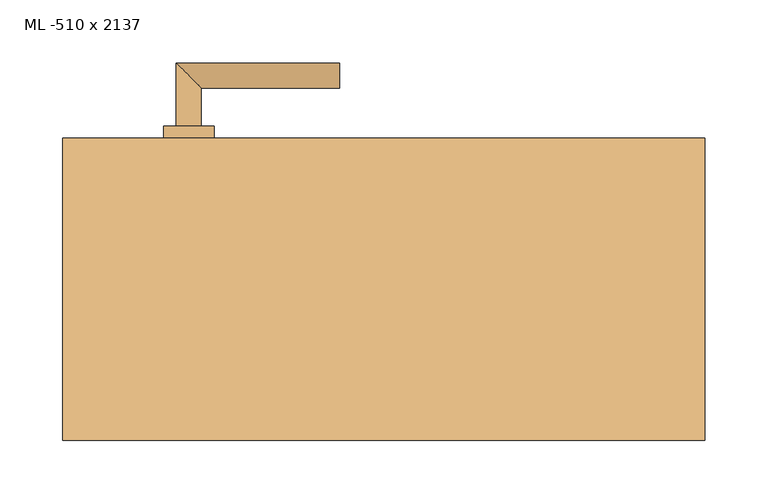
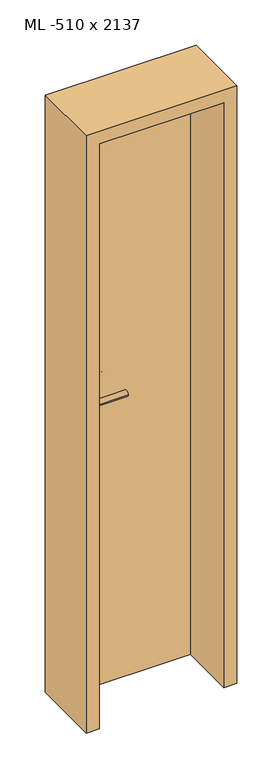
"""IFC4 building model written with IfcOpenShell, lengths in millimetres: door geometry, TU DF 1 - Rahmenstock flächenbündig : ML -510 x 2137."""

from ifc_helpers import new_model, si_unit, point, frame, frame_2d, origin, origin_with_axes, place, context, project, spatial, polyline, circle_curve, ellipse_curve, trimmed, segment, composite_curve, outline, extrude, faceted_brep, source, transform, mapped, element, save
from ifc_brep_helpers import plane_surface, cylinder_surface, advanced_brep


def ml_510_x_2137_2d006b58(model_context):
    return source(origin(), model_context, "Body", "SolidModel", [
        extrude(outline(polyline([(221.0, 120.0), (221.0, 75.0), (-221.0, 75.0), (-221.0, 120.0), (221.0, 120.0)])), origin_with_axes(), (0.0, 0.0, 1.0), 2101.0),
        advanced_brep(
        [(-145.0, 130.0, 1050.0), (-165.0, 130.0, 1050.0), (-145.0, 160.0, 1050.0), (-165.0, 180.0, 1050.0), (-35.0, 160.0, 1050.0), (-35.0, 180.0, 1050.0)],
        [
            (0, 1, circle_curve(frame((-155.0, 130.0, 1050.0), z_axis=(0.0, -1.0, 0.0), x_axis=(-1.0, 0.0, 0.0)), 10.0)),
            (1, 0, circle_curve(frame((-155.0, 130.0, 1050.0), z_axis=(0.0, -1.0, 0.0), x_axis=(-1.0, 0.0, 0.0)), 10.0)),
            (0, 2),
            (2, 3, ellipse_curve(frame((-155.0, 170.0, 1050.0), z_axis=(-0.7071067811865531, -0.7071067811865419, 0.0), x_axis=(0.707106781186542, -0.707106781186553, 0.0)), 14.1421356, 10.0)),
            (3, 1),
            (3, 2, ellipse_curve(frame((-155.0, 170.0, 1050.0), z_axis=(-0.7071067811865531, -0.7071067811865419, 0.0), x_axis=(0.707106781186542, -0.707106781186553, 0.0)), 14.1421356, 10.0)),
            (4, 5, circle_curve(frame((-35.0, 170.0, 1050.0), z_axis=(1.0, 0.0, 0.0), x_axis=(0.0, 1.0, 0.0)), 10.0)),
            (5, 4, circle_curve(frame((-35.0, 170.0, 1050.0), z_axis=(1.0, 0.0, 0.0), x_axis=(0.0, 1.0, 0.0)), 10.0)),
            (2, 4),
            (5, 3),
        ],
        [
            plane_surface(frame((-155.0, 130.0, 1050.0), z_axis=(0.0, -1.0, 0.0), x_axis=(0.0, 0.0, 1.0))),
            cylinder_surface(frame((-155.0, 130.0, 1050.0), z_axis=(0.0, -1.0, 0.0), x_axis=(-1.0, 0.0, 0.0)), 10.0),
            plane_surface(frame((-35.0, 170.0, 1050.0), z_axis=(1.0, 0.0, 0.0), x_axis=(0.0, 0.0, 1.0))),
            cylinder_surface(frame((-155.0, 170.0, 1050.0), z_axis=(-1.0, 0.0, 0.0), x_axis=(0.0, 1.0, 0.0)), 10.0),
        ],
        [
            (0, [[1, 2]]),
            (1, [[-1, 3, 4, 5]]),
            (1, [[-2, -5, 6, -3]]),
            (2, [[7, 8]]),
            (3, [[-4, 9, -8, 10]]),
            (3, [[-6, -10, -7, -9]]),
        ],
    ),
        extrude(outline(composite_curve([segment(trimmed(circle_curve(frame_2d((990.0, -155.0)), 20.0), [point((990.0, -175.0))], [point((990.0, -135.0))], False, "CARTESIAN"), True, "CONTINUOUS"), segment(trimmed(circle_curve(frame_2d((990.0, -155.0)), 20.0), [point((990.0, -135.0))], [point((990.0, -175.0))], False, "CARTESIAN"), True, "CONTINUOUS")], self_intersect=False), holes=[composite_curve([segment(polyline([(976.4601385, -157.397268), (988.4749012, -157.397268)]), True, "CONTINUOUS"), segment(trimmed(circle_curve(frame_2d((995.0361633, -155.0)), 6.9854888), [point((988.4749012, -157.397268))], [point((988.4749012, -152.602732))], True, "CARTESIAN"), True, "CONTINUOUS"), segment(polyline([(988.4749012, -152.602732), (976.4601385, -152.602732)]), True, "CONTINUOUS"), segment(trimmed(circle_curve(frame_2d((976.4601385, -155.0)), 2.397268), [point((976.4601385, -152.602732))], [point((976.4601385, -157.397268))], True, "CARTESIAN"), True, "CONTINUOUS")], self_intersect=False)]), frame((0.0, 120.0, 0.0), z_axis=(0.0, 1.0, 0.0), x_axis=(0.0, 0.0, 1.0)), (0.0, 0.0, 1.0), 10.0),
        advanced_brep(
        [(-145.0, 130.0, 1050.0), (-165.0, 130.0, 1050.0), (-145.0, 160.0, 1050.0), (-165.0, 180.0, 1050.0), (-35.0, 160.0, 1050.0), (-35.0, 180.0, 1050.0)],
        [
            (0, 1, circle_curve(frame((-155.0, 130.0, 1050.0), z_axis=(0.0, -1.0, 0.0), x_axis=(-1.0, 0.0, 0.0)), 10.0)),
            (1, 0, circle_curve(frame((-155.0, 130.0, 1050.0), z_axis=(0.0, -1.0, 0.0), x_axis=(-1.0, 0.0, 0.0)), 10.0)),
            (0, 2),
            (2, 3, ellipse_curve(frame((-155.0, 170.0, 1050.0), z_axis=(-0.7071067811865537, -0.7071067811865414, 0.0), x_axis=(0.7071067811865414, -0.7071067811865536, 0.0)), 14.1421356, 10.0)),
            (3, 1),
            (3, 2, ellipse_curve(frame((-155.0, 170.0, 1050.0), z_axis=(-0.7071067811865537, -0.7071067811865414, 0.0), x_axis=(0.7071067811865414, -0.7071067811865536, 0.0)), 14.1421356, 10.0)),
            (4, 5, circle_curve(frame((-35.0, 170.0, 1050.0), z_axis=(1.0, 0.0, 0.0), x_axis=(0.0, 1.0, 0.0)), 10.0)),
            (5, 4, circle_curve(frame((-35.0, 170.0, 1050.0), z_axis=(1.0, 0.0, 0.0), x_axis=(0.0, 1.0, 0.0)), 10.0)),
            (2, 4),
            (5, 3),
        ],
        [
            plane_surface(frame((-155.0, 130.0, 1050.0), z_axis=(0.0, -1.0, 0.0), x_axis=(0.0, 0.0, 1.0))),
            cylinder_surface(frame((-155.0, 130.0, 1050.0), z_axis=(0.0, -1.0, 0.0), x_axis=(-1.0, 0.0, 0.0)), 10.0),
            plane_surface(frame((-35.0, 170.0, 1050.0), z_axis=(1.0, 0.0, 0.0), x_axis=(0.0, 0.0, 1.0))),
            cylinder_surface(frame((-155.0, 170.0, 1050.0), z_axis=(-1.0, 0.0, 0.0), x_axis=(0.0, 1.0, 0.0)), 10.0),
        ],
        [
            (0, [[1, 2]]),
            (1, [[-1, 3, 4, 5]]),
            (1, [[-2, -5, 6, -3]]),
            (2, [[7, 8]]),
            (3, [[-4, 9, -8, 10]]),
            (3, [[-6, -10, -7, -9]]),
        ],
    ),
        extrude(outline(composite_curve([segment(trimmed(circle_curve(frame_2d((1050.0, -155.0)), 20.0), [point((1050.0, -175.0))], [point((1050.0, -135.0))], False, "CARTESIAN"), True, "CONTINUOUS"), segment(trimmed(circle_curve(frame_2d((1050.0, -155.0)), 20.0), [point((1050.0, -135.0))], [point((1050.0, -175.0))], False, "CARTESIAN"), True, "CONTINUOUS")], self_intersect=False)), frame((0.0, 120.0, 0.0), z_axis=(0.0, 1.0, 0.0), x_axis=(0.0, 0.0, 1.0)), (0.0, 0.0, 1.0), 10.0),
        advanced_brep(
        [(-145.0, 65.0, 1050.0), (-165.0, 65.0, 1050.0), (-165.0, 15.0, 1050.0), (-145.0, 35.0, 1050.0), (-35.0, 35.0, 1050.0), (-35.0, 15.0, 1050.0)],
        [
            (0, 1, circle_curve(frame((-155.0, 65.0, 1050.0), z_axis=(0.0, 1.0, 0.0), x_axis=(-1.0, 0.0, 0.0)), 10.0)),
            (1, 0, circle_curve(frame((-155.0, 65.0, 1050.0), z_axis=(0.0, 1.0, 0.0), x_axis=(-1.0, 0.0, 0.0)), 10.0)),
            (1, 2),
            (2, 3, ellipse_curve(frame((-155.0, 25.0, 1050.0), z_axis=(-0.7071067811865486, 0.7071067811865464, 0.0), x_axis=(0.7071067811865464, 0.7071067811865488, 0.0)), 14.1421356, 10.0)),
            (3, 0),
            (3, 2, ellipse_curve(frame((-155.0, 25.0, 1050.0), z_axis=(-0.7071067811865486, 0.7071067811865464, 0.0), x_axis=(0.7071067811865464, 0.7071067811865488, 0.0)), 14.1421356, 10.0)),
            (4, 5, circle_curve(frame((-35.0, 25.0, 1050.0), z_axis=(1.0, 0.0, 0.0), x_axis=(0.0, -1.0, 0.0)), 10.0)),
            (5, 4, circle_curve(frame((-35.0, 25.0, 1050.0), z_axis=(1.0, 0.0, 0.0), x_axis=(0.0, -1.0, 0.0)), 10.0)),
            (2, 5),
            (4, 3),
        ],
        [
            plane_surface(frame((-155.0, 65.0, 1050.0), z_axis=(0.0, 1.0, 0.0), x_axis=(0.0, 0.0, 1.0))),
            cylinder_surface(frame((-155.0, 65.0, 1050.0), z_axis=(0.0, 1.0, 0.0), x_axis=(-1.0, 0.0, 0.0)), 10.0),
            plane_surface(frame((-35.0, 25.0, 1050.0), z_axis=(1.0, 0.0, 0.0), x_axis=(0.0, 0.0, 1.0))),
            cylinder_surface(frame((-155.0, 25.0, 1050.0), z_axis=(-1.0, 0.0, 0.0), x_axis=(0.0, -1.0, 0.0)), 10.0),
        ],
        [
            (0, [[1, 2]]),
            (1, [[3, 4, 5, -2]]),
            (1, [[-5, 6, -3, -1]]),
            (2, [[7, 8]]),
            (3, [[9, -7, 10, -4]]),
            (3, [[-10, -8, -9, -6]]),
        ],
    ),
        extrude(outline(composite_curve([segment(trimmed(circle_curve(frame_2d((990.0, -155.0)), 20.0), [point((990.0, -175.0))], [point((990.0, -135.0))], False, "CARTESIAN"), True, "CONTINUOUS"), segment(trimmed(circle_curve(frame_2d((990.0, -155.0)), 20.0), [point((990.0, -135.0))], [point((990.0, -175.0))], False, "CARTESIAN"), True, "CONTINUOUS")], self_intersect=False), holes=[composite_curve([segment(polyline([(976.4601385, -157.397268), (988.4749012, -157.397268)]), True, "CONTINUOUS"), segment(trimmed(circle_curve(frame_2d((995.0361633, -155.0)), 6.9854888), [point((988.4749012, -157.397268))], [point((988.4749012, -152.602732))], True, "CARTESIAN"), True, "CONTINUOUS"), segment(polyline([(988.4749012, -152.602732), (976.4601385, -152.602732)]), True, "CONTINUOUS"), segment(trimmed(circle_curve(frame_2d((976.4601385, -155.0)), 2.397268), [point((976.4601385, -152.602732))], [point((976.4601385, -157.397268))], True, "CARTESIAN"), True, "CONTINUOUS")], self_intersect=False)]), frame((0.0, 65.0, 0.0), z_axis=(0.0, 1.0, 0.0), x_axis=(0.0, 0.0, 1.0)), (0.0, 0.0, 1.0), 10.0),
        advanced_brep(
        [(-145.0, 65.0, 1050.0), (-165.0, 65.0, 1050.0), (-165.0, 15.0, 1050.0), (-145.0, 35.0, 1050.0), (-35.0, 35.0, 1050.0), (-35.0, 15.0, 1050.0)],
        [
            (0, 1, circle_curve(frame((-155.0, 65.0, 1050.0), z_axis=(0.0, 1.0, 0.0), x_axis=(-1.0, 0.0, 0.0)), 10.0)),
            (1, 0, circle_curve(frame((-155.0, 65.0, 1050.0), z_axis=(0.0, 1.0, 0.0), x_axis=(-1.0, 0.0, 0.0)), 10.0)),
            (1, 2),
            (2, 3, ellipse_curve(frame((-155.0, 25.0, 1050.0), z_axis=(-0.7071067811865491, 0.7071067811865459, 0.0), x_axis=(0.7071067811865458, 0.7071067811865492, 0.0)), 14.1421356, 10.0)),
            (3, 0),
            (3, 2, ellipse_curve(frame((-155.0, 25.0, 1050.0), z_axis=(-0.7071067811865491, 0.7071067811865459, 0.0), x_axis=(0.7071067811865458, 0.7071067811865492, 0.0)), 14.1421356, 10.0)),
            (4, 5, circle_curve(frame((-35.0, 25.0, 1050.0), z_axis=(1.0, 0.0, 0.0), x_axis=(0.0, -1.0, 0.0)), 10.0)),
            (5, 4, circle_curve(frame((-35.0, 25.0, 1050.0), z_axis=(1.0, 0.0, 0.0), x_axis=(0.0, -1.0, 0.0)), 10.0)),
            (2, 5),
            (4, 3),
        ],
        [
            plane_surface(frame((-155.0, 65.0, 1050.0), z_axis=(0.0, 1.0, 0.0), x_axis=(0.0, 0.0, 1.0))),
            cylinder_surface(frame((-155.0, 65.0, 1050.0), z_axis=(0.0, 1.0, 0.0), x_axis=(-1.0, 0.0, 0.0)), 10.0),
            plane_surface(frame((-35.0, 25.0, 1050.0), z_axis=(1.0, 0.0, 0.0), x_axis=(0.0, 0.0, 1.0))),
            cylinder_surface(frame((-155.0, 25.0, 1050.0), z_axis=(-1.0, 0.0, 0.0), x_axis=(0.0, -1.0, 0.0)), 10.0),
        ],
        [
            (0, [[1, 2]]),
            (1, [[3, 4, 5, -2]]),
            (1, [[-5, 6, -3, -1]]),
            (2, [[7, 8]]),
            (3, [[9, -7, 10, -4]]),
            (3, [[-10, -8, -9, -6]]),
        ],
    ),
        extrude(outline(composite_curve([segment(trimmed(circle_curve(frame_2d((1050.0, -155.0)), 20.0), [point((1050.0, -175.0))], [point((1050.0, -135.0))], False, "CARTESIAN"), True, "CONTINUOUS"), segment(trimmed(circle_curve(frame_2d((1050.0, -155.0)), 20.0), [point((1050.0, -135.0))], [point((1050.0, -175.0))], False, "CARTESIAN"), True, "CONTINUOUS")], self_intersect=False)), frame((0.0, 65.0, 0.0), z_axis=(0.0, 1.0, 0.0), x_axis=(0.0, 0.0, 1.0)), (0.0, 0.0, 1.0), 10.0),
        faceted_brep([(-225.0, 120.0, 0.0), (-225.0, 75.0, 0.0), (-210.0, 75.0, 0.0), (-210.0, -120.0, 0.0), (-255.0, -120.0, 0.0), (-255.0, 120.0, 0.0), (-225.0, 120.0, 2105.0), (-225.0, 75.0, 2105.0), (225.0, 75.0, 2105.0), (225.0, 75.0, 0.0), (210.0, 75.0, 0.0), (210.0, 75.0, 2090.0), (-210.0, 75.0, 2090.0), (-210.0, -120.0, 2090.0), (210.0, -120.0, 2090.0), (210.0, -120.0, 0.0), (255.0, -120.0, 0.0), (255.0, -120.0, 2135.0), (-255.0, -120.0, 2135.0), (-255.0, 120.0, 2135.0), (255.0, 120.0, 2135.0), (255.0, 120.0, 0.0), (225.0, 120.0, 0.0), (225.0, 120.0, 2105.0)], [[[0, 1, 2, 3, 4, 5]], [[1, 0, 6, 7]], [[2, 1, 7, 8, 9, 10, 11, 12]], [[3, 2, 12, 13]], [[4, 3, 13, 14, 15, 16, 17, 18]], [[5, 4, 18, 19]], [[0, 5, 19, 20, 21, 22, 23, 6]], [[20, 17, 16, 21]], [[22, 21, 16, 15, 10, 9]], [[8, 23, 22, 9]], [[14, 11, 10, 15]], [[19, 18, 17, 20]], [[13, 12, 11, 14]], [[7, 6, 23, 8]]]),
    ])


if __name__ == "__main__":
    model = new_model("IFC4")
    model_context = context("Model", 3, world=origin())
    ifc_project = project(units=[si_unit("LENGTHUNIT", "METRE", prefix="MILLI")], contexts=[model_context])
    site = spatial("IfcSite", under=ifc_project)
    building = spatial("IfcBuilding", under=site)
    placement = place(None, origin())
    ml_510_x_2137_shape = ml_510_x_2137_2d006b58(model_context)
    element("IfcDoor", 1, ObjectType="TU DF 1 - Rahmenstock flächenbündig : ML -510 x 2137", at=placement, inside=building, context=model_context, shape_type="MappedRepresentation", body=[
        mapped(ml_510_x_2137_shape, transform((0.0, 0.0, 0.0), x_axis=(1.0, 0.0, 0.0), y_axis=(0.0, 1.0, 0.0), z_axis=(0.0, 0.0, 1.0))),
    ])
    save(model, "model.ifc")
